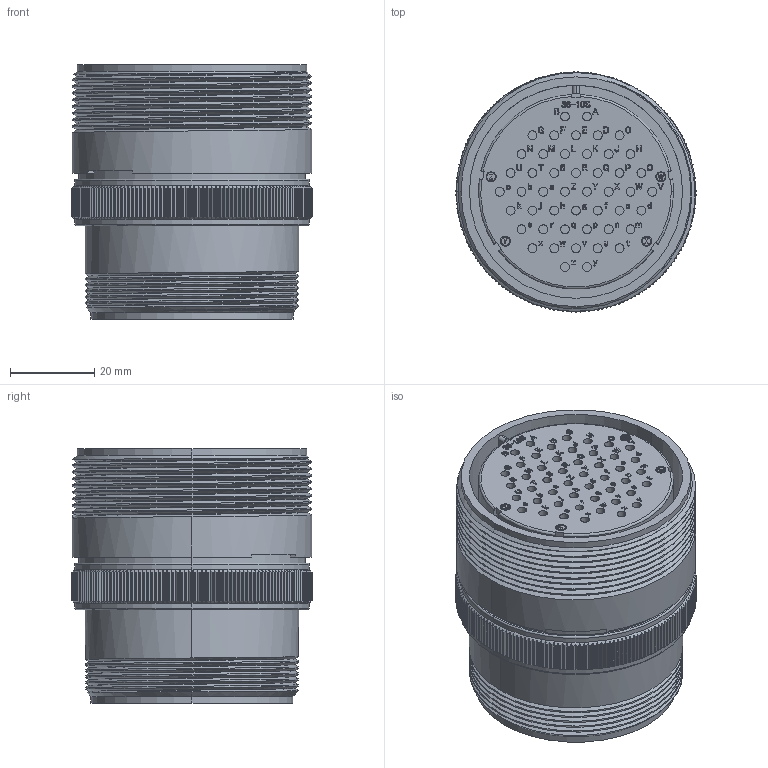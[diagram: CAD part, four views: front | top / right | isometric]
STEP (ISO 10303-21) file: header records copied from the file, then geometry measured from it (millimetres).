
FILE_DESCRIPTION (( 'STEP AP203' ), '1' );
FILE_NAME ('DMS3101A36-10S.STEP', '2017-10-19T00:15:47', ( '' ), ( '' ), 'SwSTEP 2.0', 'SolidWorks 2015', '' );
FILE_SCHEMA (( 'CONFIG_CONTROL_DESIGN' ));
Length unit declared in the file: millimetre
Products named in the file (1): DMS3101A36-10S
Bounding box: 57.1 x 57.1 x 60.5 mm (x, y, z)
Volume: 87232.7 mm3; surface area: 40100.8 mm2
Topology: 1 solids, 1 shells, 4922 faces, 13717 edges, 9137 vertices
Faces by surface type: plane 2242, cylinder 1579, bspline 981, torus 106, cone 14
Entity records: 199080 total; most frequent: CARTESIAN_POINT 83545, ORIENTED_EDGE 27432, DIRECTION 18426, EDGE_CURVE 13716, VERTEX_POINT 9137, LINE 7276, VECTOR 7276, AXIS2_PLACEMENT_3D 5575
